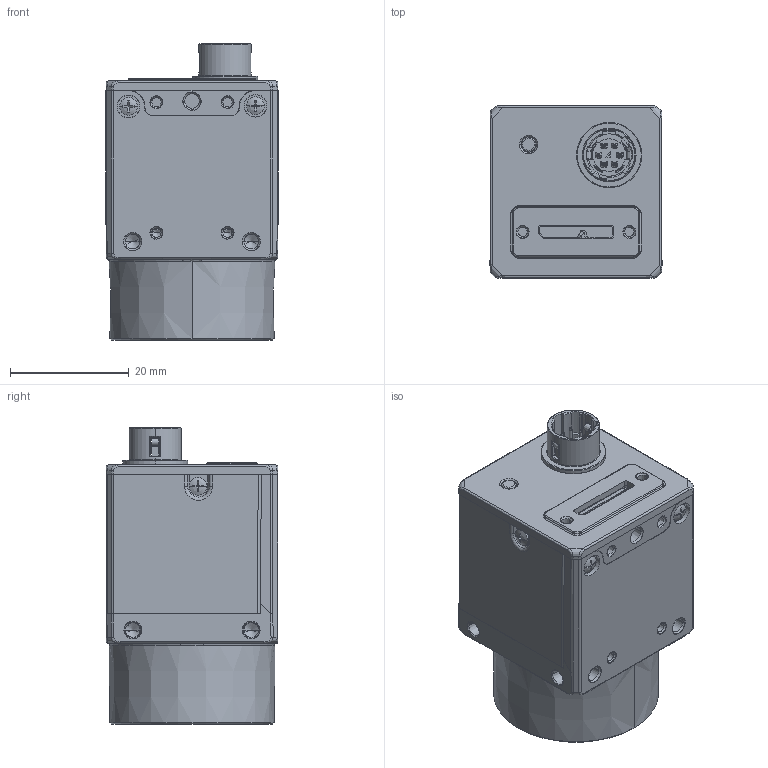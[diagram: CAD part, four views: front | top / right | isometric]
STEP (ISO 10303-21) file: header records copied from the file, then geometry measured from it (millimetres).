
FILE_DESCRIPTION((''),'2;1');
FILE_NAME('A1','2023-03-30T15:37:29',('xueqinyuan'),(''),'CREO PARAMETRIC BY PTC INC, 2020044','CREO PARAMETRIC BY PTC INC, 2020044','');
FILE_SCHEMA(('CONFIG_CONTROL_DESIGN'));
Products named in the file (1): A1
Bounding box: 29.03 x 29 x 50.08 mm (x, y, z)
Volume: 1751.7 mm3; surface area: 22798.6 mm2
Topology: 3 solids, 65 shells, 3764 faces, 10650 edges, 6843 vertices
Faces by surface type: plane 1796, cylinder 1198, bspline 317, cone 240, torus 167, sphere 46
Entity records: 158248 total; most frequent: CARTESIAN_POINT 63807, ORIENTED_EDGE 20722, DIRECTION 18206, EDGE_CURVE 10620, VERTEX_POINT 6844, AXIS2_PLACEMENT_3D 6225, VECTOR 5756, LINE 5756
